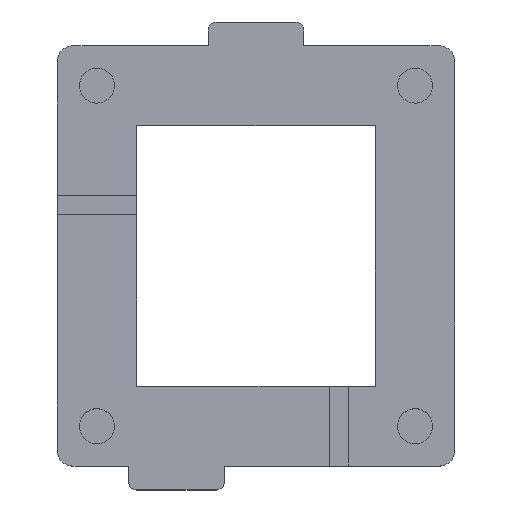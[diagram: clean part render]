
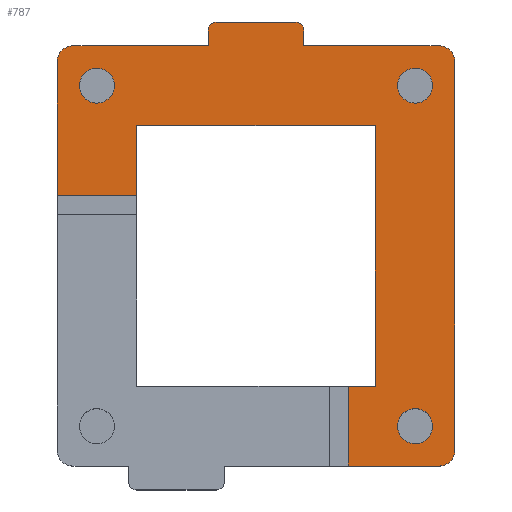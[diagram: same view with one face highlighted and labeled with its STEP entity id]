
A CAD part, top view. The second image highlights one B-rep face of the part: STEP entity #787.
In plain terms, the highlighted planar face has unit normal (0, 0, 1).
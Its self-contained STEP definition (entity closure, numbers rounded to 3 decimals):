
#16=FACE_BOUND('',#105,.T.);
#17=FACE_BOUND('',#106,.T.);
#18=FACE_BOUND('',#107,.T.);
#28=PLANE('',#855);
#60=FACE_OUTER_BOUND('',#104,.T.);
#104=EDGE_LOOP('',(#586,#587,#588,#589,#590,#591,#592,#593,#594,#595,#596,
#597,#598,#599,#600,#601,#602,#603,#604));
#105=EDGE_LOOP('',(#605));
#106=EDGE_LOOP('',(#606));
#107=EDGE_LOOP('',(#607));
#173=LINE('',#1214,#259);
#175=LINE('',#1218,#261);
#176=LINE('',#1222,#262);
#177=LINE('',#1224,#263);
#178=LINE('',#1228,#264);
#179=LINE('',#1230,#265);
#180=LINE('',#1232,#266);
#181=LINE('',#1234,#267);
#182=LINE('',#1236,#268);
#183=LINE('',#1238,#269);
#184=LINE('',#1240,#270);
#185=LINE('',#1242,#271);
#186=LINE('',#1246,#272);
#187=LINE('',#1249,#273);
#259=VECTOR('',#971,10.);
#261=VECTOR('',#975,10.);
#262=VECTOR('',#978,10.);
#263=VECTOR('',#979,10.);
#264=VECTOR('',#982,10.);
#265=VECTOR('',#983,10.);
#266=VECTOR('',#984,10.);
#267=VECTOR('',#985,10.);
#268=VECTOR('',#986,10.);
#269=VECTOR('',#987,10.);
#270=VECTOR('',#988,10.);
#271=VECTOR('',#989,10.);
#272=VECTOR('',#992,10.);
#273=VECTOR('',#995,10.);
#330=CIRCLE('',#853,0.5);
#331=CIRCLE('',#856,0.5);
#332=CIRCLE('',#857,1.);
#333=CIRCLE('',#858,1.);
#334=CIRCLE('',#859,1.);
#335=CIRCLE('',#860,1.1);
#336=CIRCLE('',#861,1.1);
#337=CIRCLE('',#862,1.1);
#377=VERTEX_POINT('',#1207);
#378=VERTEX_POINT('',#1209);
#379=VERTEX_POINT('',#1213);
#380=VERTEX_POINT('',#1217);
#381=VERTEX_POINT('',#1219);
#382=VERTEX_POINT('',#1221);
#383=VERTEX_POINT('',#1223);
#384=VERTEX_POINT('',#1225);
#385=VERTEX_POINT('',#1227);
#386=VERTEX_POINT('',#1229);
#387=VERTEX_POINT('',#1231);
#388=VERTEX_POINT('',#1233);
#389=VERTEX_POINT('',#1235);
#390=VERTEX_POINT('',#1237);
#391=VERTEX_POINT('',#1239);
#392=VERTEX_POINT('',#1241);
#393=VERTEX_POINT('',#1243);
#394=VERTEX_POINT('',#1245);
#395=VERTEX_POINT('',#1247);
#396=VERTEX_POINT('',#1250);
#397=VERTEX_POINT('',#1252);
#398=VERTEX_POINT('',#1254);
#458=EDGE_CURVE('',#377,#378,#330,.T.);
#460=EDGE_CURVE('',#378,#379,#173,.T.);
#462=EDGE_CURVE('',#380,#377,#175,.T.);
#463=EDGE_CURVE('',#381,#380,#331,.T.);
#464=EDGE_CURVE('',#382,#381,#176,.T.);
#465=EDGE_CURVE('',#382,#383,#177,.T.);
#466=EDGE_CURVE('',#384,#383,#332,.T.);
#467=EDGE_CURVE('',#384,#385,#178,.T.);
#468=EDGE_CURVE('',#385,#386,#179,.T.);
#469=EDGE_CURVE('',#386,#387,#180,.T.);
#470=EDGE_CURVE('',#387,#388,#181,.T.);
#471=EDGE_CURVE('',#388,#389,#182,.T.);
#472=EDGE_CURVE('',#389,#390,#183,.T.);
#473=EDGE_CURVE('',#390,#391,#184,.T.);
#474=EDGE_CURVE('',#391,#392,#185,.T.);
#475=EDGE_CURVE('',#393,#392,#333,.T.);
#476=EDGE_CURVE('',#393,#394,#186,.T.);
#477=EDGE_CURVE('',#395,#394,#334,.T.);
#478=EDGE_CURVE('',#395,#379,#187,.T.);
#479=EDGE_CURVE('',#396,#396,#335,.T.);
#480=EDGE_CURVE('',#397,#397,#336,.T.);
#481=EDGE_CURVE('',#398,#398,#337,.T.);
#586=ORIENTED_EDGE('',*,*,#458,.F.);
#587=ORIENTED_EDGE('',*,*,#462,.F.);
#588=ORIENTED_EDGE('',*,*,#463,.F.);
#589=ORIENTED_EDGE('',*,*,#464,.F.);
#590=ORIENTED_EDGE('',*,*,#465,.T.);
#591=ORIENTED_EDGE('',*,*,#466,.F.);
#592=ORIENTED_EDGE('',*,*,#467,.T.);
#593=ORIENTED_EDGE('',*,*,#468,.T.);
#594=ORIENTED_EDGE('',*,*,#469,.T.);
#595=ORIENTED_EDGE('',*,*,#470,.T.);
#596=ORIENTED_EDGE('',*,*,#471,.T.);
#597=ORIENTED_EDGE('',*,*,#472,.T.);
#598=ORIENTED_EDGE('',*,*,#473,.T.);
#599=ORIENTED_EDGE('',*,*,#474,.T.);
#600=ORIENTED_EDGE('',*,*,#475,.F.);
#601=ORIENTED_EDGE('',*,*,#476,.T.);
#602=ORIENTED_EDGE('',*,*,#477,.F.);
#603=ORIENTED_EDGE('',*,*,#478,.T.);
#604=ORIENTED_EDGE('',*,*,#460,.F.);
#605=ORIENTED_EDGE('',*,*,#479,.T.);
#606=ORIENTED_EDGE('',*,*,#480,.T.);
#607=ORIENTED_EDGE('',*,*,#481,.T.);
#787=ADVANCED_FACE('',(#60,#16,#17,#18),#28,.T.);
#853=AXIS2_PLACEMENT_3D('',#1210,#966,#967);
#855=AXIS2_PLACEMENT_3D('',#1216,#973,#974);
#856=AXIS2_PLACEMENT_3D('',#1220,#976,#977);
#857=AXIS2_PLACEMENT_3D('',#1226,#980,#981);
#858=AXIS2_PLACEMENT_3D('',#1244,#990,#991);
#859=AXIS2_PLACEMENT_3D('',#1248,#993,#994);
#860=AXIS2_PLACEMENT_3D('',#1251,#996,#997);
#861=AXIS2_PLACEMENT_3D('',#1253,#998,#999);
#862=AXIS2_PLACEMENT_3D('',#1255,#1000,#1001);
#966=DIRECTION('center_axis',(0.,0.,-1.));
#967=DIRECTION('ref_axis',(0.707,0.707,0.));
#971=DIRECTION('',(0.,-1.,0.));
#973=DIRECTION('center_axis',(0.,0.,1.));
#974=DIRECTION('ref_axis',(1.,0.,0.));
#975=DIRECTION('',(1.,0.,0.));
#976=DIRECTION('center_axis',(0.,0.,-1.));
#977=DIRECTION('ref_axis',(-0.707,0.707,0.));
#978=DIRECTION('',(0.,1.,0.));
#979=DIRECTION('',(-1.,0.,0.));
#980=DIRECTION('center_axis',(0.,0.,-1.));
#981=DIRECTION('ref_axis',(-0.707,0.707,0.));
#982=DIRECTION('',(0.,-1.,0.));
#983=DIRECTION('',(1.,0.,0.));
#984=DIRECTION('',(0.,1.,0.));
#985=DIRECTION('',(1.,0.,0.));
#986=DIRECTION('',(0.,-1.,0.));
#987=DIRECTION('',(-1.,0.,0.));
#988=DIRECTION('',(0.,-1.,0.));
#989=DIRECTION('',(1.,0.,0.));
#990=DIRECTION('center_axis',(0.,0.,-1.));
#991=DIRECTION('ref_axis',(0.707,-0.707,0.));
#992=DIRECTION('',(0.,1.,0.));
#993=DIRECTION('center_axis',(0.,0.,-1.));
#994=DIRECTION('ref_axis',(0.707,0.707,0.));
#995=DIRECTION('',(-1.,0.,0.));
#996=DIRECTION('center_axis',(0.,0.,-1.));
#997=DIRECTION('ref_axis',(1.,0.,0.));
#998=DIRECTION('center_axis',(0.,0.,-1.));
#999=DIRECTION('ref_axis',(1.,0.,0.));
#1000=DIRECTION('center_axis',(0.,0.,-1.));
#1001=DIRECTION('ref_axis',(1.,0.,0.));
#1207=CARTESIAN_POINT('',(2.5,14.7,4.));
#1209=CARTESIAN_POINT('',(3.,14.2,4.));
#1210=CARTESIAN_POINT('Origin',(2.5,14.2,4.));
#1213=CARTESIAN_POINT('',(3.,13.2,4.));
#1214=CARTESIAN_POINT('',(3.,14.7,4.));
#1216=CARTESIAN_POINT('Origin',(0.,0.,
4.));
#1217=CARTESIAN_POINT('',(-2.5,14.7,4.));
#1218=CARTESIAN_POINT('',(-3.,14.7,4.));
#1219=CARTESIAN_POINT('',(-3.,14.2,4.));
#1220=CARTESIAN_POINT('Origin',(-2.5,14.2,4.));
#1221=CARTESIAN_POINT('',(-3.,13.2,4.));
#1222=CARTESIAN_POINT('',(-3.,11.7,4.));
#1223=CARTESIAN_POINT('',(-11.5,13.2,4.));
#1224=CARTESIAN_POINT('',(12.5,13.2,4.));
#1225=CARTESIAN_POINT('',(-12.5,12.2,4.));
#1226=CARTESIAN_POINT('Origin',(-11.5,12.2,4.));
#1227=CARTESIAN_POINT('',(-12.5,3.8,4.));
#1228=CARTESIAN_POINT('',(-12.5,13.2,4.));
#1229=CARTESIAN_POINT('',(-7.5,3.8,4.));
#1230=CARTESIAN_POINT('',(-7.5,3.8,4.));
#1231=CARTESIAN_POINT('',(-7.5,8.2,4.));
#1232=CARTESIAN_POINT('',(-7.5,8.2,4.));
#1233=CARTESIAN_POINT('',(7.5,8.2,4.));
#1234=CARTESIAN_POINT('',(7.5,8.2,4.));
#1235=CARTESIAN_POINT('',(7.5,-8.2,4.));
#1236=CARTESIAN_POINT('',(7.5,-8.2,4.));
#1237=CARTESIAN_POINT('',(5.8,-8.2,4.));
#1238=CARTESIAN_POINT('',(-7.5,-8.2,4.));
#1239=CARTESIAN_POINT('',(5.8,-13.2,4.));
#1240=CARTESIAN_POINT('',(5.8,-8.2,4.));
#1241=CARTESIAN_POINT('',(11.5,-13.2,4.));
#1242=CARTESIAN_POINT('',(-12.5,-13.2,4.));
#1243=CARTESIAN_POINT('',(12.5,-12.2,4.));
#1244=CARTESIAN_POINT('Origin',(11.5,-12.2,4.));
#1245=CARTESIAN_POINT('',(12.5,12.2,4.));
#1246=CARTESIAN_POINT('',(12.5,-13.2,4.));
#1247=CARTESIAN_POINT('',(11.5,13.2,4.));
#1248=CARTESIAN_POINT('Origin',(11.5,12.2,4.));
#1249=CARTESIAN_POINT('',(12.5,13.2,4.));
#1250=CARTESIAN_POINT('',(8.9,-10.7,4.));
#1251=CARTESIAN_POINT('Origin',(10.,-10.7,4.));
#1252=CARTESIAN_POINT('',(8.9,10.7,4.));
#1253=CARTESIAN_POINT('Origin',(10.,10.7,4.));
#1254=CARTESIAN_POINT('',(-11.1,10.7,4.));
#1255=CARTESIAN_POINT('Origin',(-10.,10.7,4.));
